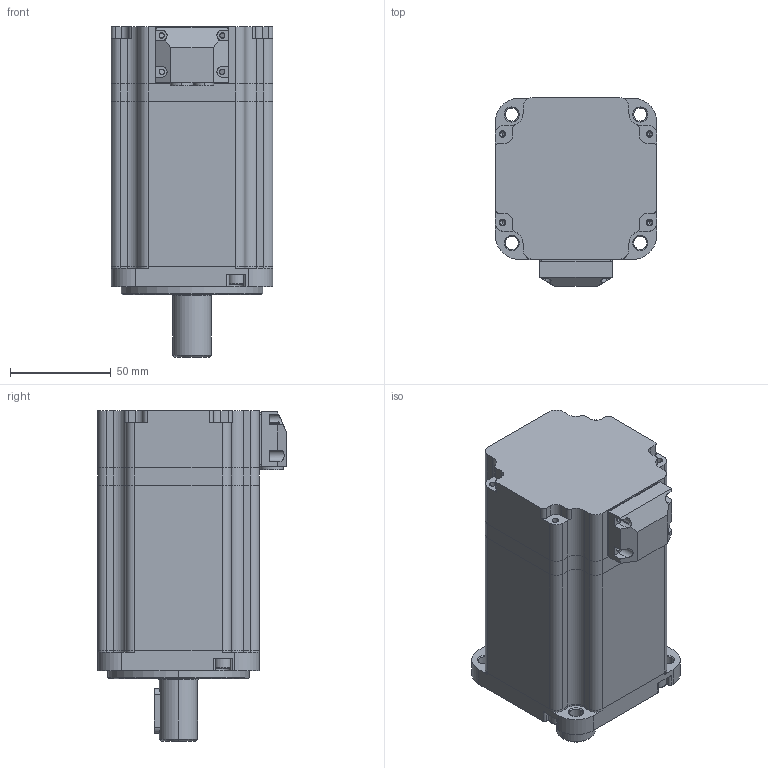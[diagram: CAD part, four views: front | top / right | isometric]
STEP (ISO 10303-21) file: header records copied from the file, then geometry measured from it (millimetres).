
FILE_DESCRIPTION (( 'STEP AP203' ), '1' );
FILE_NAME ('9.5553 SMS80S-0075-30KAK-3LSU.STEP', '2019-05-20T08:02:12', ( '' ), ( '' ), 'SwSTEP 2.0', 'SolidWorks 2008', '' );
FILE_SCHEMA (( 'CONFIG_CONTROL_DESIGN' ));
Length unit declared in the file: millimetre
Products named in the file (1): 9.5553 SMS80S-0075-30KAK-3LSU
Bounding box: 80 x 93.5 x 163.7 mm (x, y, z)
Volume: 292841.9 mm3; surface area: 155139.4 mm2
Topology: 18 solids, 18 shells, 958 faces, 2501 edges, 1613 vertices
Faces by surface type: cylinder 494, plane 366, cone 80, bspline 18
Entity records: 30295 total; most frequent: CARTESIAN_POINT 5779, DIRECTION 5443, ORIENTED_EDGE 4934, EDGE_CURVE 2467, AXIS2_PLACEMENT_3D 2085, VERTEX_POINT 1613, VECTOR 1273, LINE 1273
